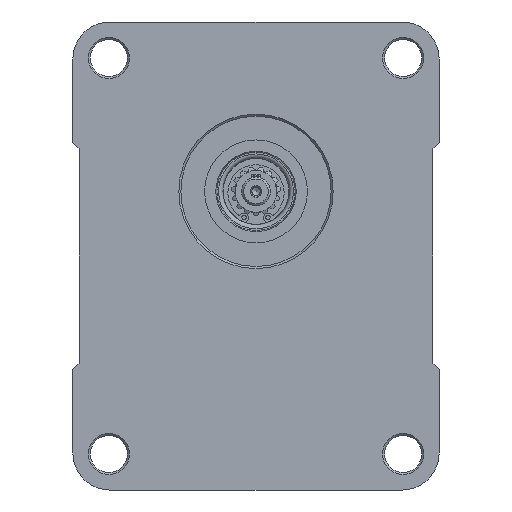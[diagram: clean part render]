
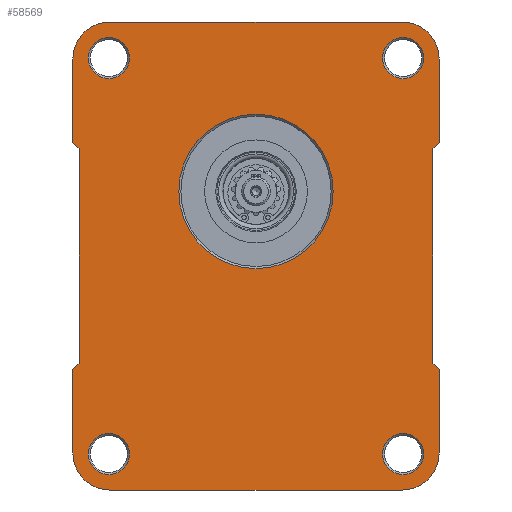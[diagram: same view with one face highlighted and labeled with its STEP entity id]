
A CAD part, front view. The second image highlights one B-rep face of the part: STEP entity #58569.
In plain terms, the highlighted planar face has unit normal (0, -1, 0).
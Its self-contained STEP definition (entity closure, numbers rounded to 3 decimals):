
#3438=LINE('',#79894,#5504);
#3439=LINE('',#79896,#5505);
#3440=LINE('',#79898,#5506);
#3441=LINE('',#79900,#5507);
#3442=LINE('',#79902,#5508);
#3443=LINE('',#79906,#5509);
#3444=LINE('',#79910,#5510);
#3445=LINE('',#79912,#5511);
#3446=LINE('',#79914,#5512);
#3447=LINE('',#79916,#5513);
#3448=LINE('',#79918,#5514);
#3449=LINE('',#79922,#5515);
#5504=VECTOR('',#66679,1000.);
#5505=VECTOR('',#66680,1000.);
#5506=VECTOR('',#66681,1000.);
#5507=VECTOR('',#66682,1000.);
#5508=VECTOR('',#66683,1000.);
#5509=VECTOR('',#66686,1000.);
#5510=VECTOR('',#66689,1000.);
#5511=VECTOR('',#66690,1000.);
#5512=VECTOR('',#66691,1000.);
#5513=VECTOR('',#66692,1000.);
#5514=VECTOR('',#66693,1000.);
#5515=VECTOR('',#66696,1000.);
#9418=ORIENTED_EDGE('',*,*,#21381,.T.);
#9419=ORIENTED_EDGE('',*,*,#21379,.T.);
#9420=ORIENTED_EDGE('',*,*,#21377,.T.);
#9421=ORIENTED_EDGE('',*,*,#21375,.T.);
#9422=ORIENTED_EDGE('',*,*,#21374,.T.);
#9423=ORIENTED_EDGE('',*,*,#21387,.T.);
#9424=ORIENTED_EDGE('',*,*,#21388,.T.);
#9425=ORIENTED_EDGE('',*,*,#21389,.T.);
#9426=ORIENTED_EDGE('',*,*,#21390,.T.);
#9427=ORIENTED_EDGE('',*,*,#21391,.T.);
#9428=ORIENTED_EDGE('',*,*,#21392,.T.);
#9429=ORIENTED_EDGE('',*,*,#21393,.T.);
#9430=ORIENTED_EDGE('',*,*,#21394,.T.);
#9431=ORIENTED_EDGE('',*,*,#21395,.T.);
#9432=ORIENTED_EDGE('',*,*,#21396,.T.);
#9433=ORIENTED_EDGE('',*,*,#21397,.T.);
#9434=ORIENTED_EDGE('',*,*,#21398,.T.);
#9435=ORIENTED_EDGE('',*,*,#21399,.T.);
#9436=ORIENTED_EDGE('',*,*,#21400,.T.);
#9437=ORIENTED_EDGE('',*,*,#21401,.T.);
#9438=ORIENTED_EDGE('',*,*,#21402,.T.);
#21374=EDGE_CURVE('',#27418,#27418,#31077,.F.);
#21375=EDGE_CURVE('',#27419,#27419,#31078,.F.);
#21377=EDGE_CURVE('',#27421,#27421,#31080,.F.);
#21379=EDGE_CURVE('',#27423,#27423,#31082,.F.);
#21381=EDGE_CURVE('',#27425,#27425,#31084,.F.);
#21387=EDGE_CURVE('',#27431,#27432,#31090,.T.);
#21388=EDGE_CURVE('',#27432,#27433,#3438,.T.);
#21389=EDGE_CURVE('',#27433,#27434,#3439,.T.);
#21390=EDGE_CURVE('',#27434,#27435,#3440,.T.);
#21391=EDGE_CURVE('',#27435,#27436,#3441,.T.);
#21392=EDGE_CURVE('',#27436,#27437,#3442,.T.);
#21393=EDGE_CURVE('',#27437,#27438,#31091,.T.);
#21394=EDGE_CURVE('',#27438,#27439,#3443,.T.);
#21395=EDGE_CURVE('',#27439,#27440,#31092,.T.);
#21396=EDGE_CURVE('',#27440,#27441,#3444,.T.);
#21397=EDGE_CURVE('',#27441,#27442,#3445,.T.);
#21398=EDGE_CURVE('',#27442,#27443,#3446,.T.);
#21399=EDGE_CURVE('',#27443,#27444,#3447,.T.);
#21400=EDGE_CURVE('',#27444,#27445,#3448,.T.);
#21401=EDGE_CURVE('',#27445,#27446,#31093,.T.);
#21402=EDGE_CURVE('',#27446,#27431,#3449,.T.);
#27418=VERTEX_POINT('',#79857);
#27419=VERTEX_POINT('',#79860);
#27421=VERTEX_POINT('',#79865);
#27423=VERTEX_POINT('',#79870);
#27425=VERTEX_POINT('',#79875);
#27431=VERTEX_POINT('',#79892);
#27432=VERTEX_POINT('',#79893);
#27433=VERTEX_POINT('',#79895);
#27434=VERTEX_POINT('',#79897);
#27435=VERTEX_POINT('',#79899);
#27436=VERTEX_POINT('',#79901);
#27437=VERTEX_POINT('',#79903);
#27438=VERTEX_POINT('',#79905);
#27439=VERTEX_POINT('',#79907);
#27440=VERTEX_POINT('',#79909);
#27441=VERTEX_POINT('',#79911);
#27442=VERTEX_POINT('',#79913);
#27443=VERTEX_POINT('',#79915);
#27444=VERTEX_POINT('',#79917);
#27445=VERTEX_POINT('',#79919);
#27446=VERTEX_POINT('',#79921);
#31077=CIRCLE('',#61457,18.75);
#31078=CIRCLE('',#61459,5.);
#31080=CIRCLE('',#61462,5.);
#31082=CIRCLE('',#61465,5.);
#31084=CIRCLE('',#61468,5.);
#31090=CIRCLE('',#61479,9.);
#31091=CIRCLE('',#61480,9.);
#31092=CIRCLE('',#61481,9.);
#31093=CIRCLE('',#61482,9.);
#33167=EDGE_LOOP('',(#9418));
#33168=EDGE_LOOP('',(#9419));
#33169=EDGE_LOOP('',(#9420));
#33170=EDGE_LOOP('',(#9421));
#33171=EDGE_LOOP('',(#9422));
#33172=EDGE_LOOP('',(#9423,#9424,#9425,#9426,#9427,#9428,#9429,#9430,#9431,
#9432,#9433,#9434,#9435,#9436,#9437,#9438));
#36163=FACE_BOUND('',#33167,.T.);
#36164=FACE_BOUND('',#33168,.T.);
#36165=FACE_BOUND('',#33169,.T.);
#36166=FACE_BOUND('',#33170,.T.);
#36167=FACE_BOUND('',#33171,.T.);
#36168=FACE_BOUND('',#33172,.T.);
#38924=PLANE('',#61478);
#58569=ADVANCED_FACE('',(#36163,#36164,#36165,#36166,#36167,#36168),#38924,
 .T.);
#61457=AXIS2_PLACEMENT_3D('',#79856,#66633,#66634);
#61459=AXIS2_PLACEMENT_3D('',#79859,#66637,#66638);
#61462=AXIS2_PLACEMENT_3D('',#79864,#66643,#66644);
#61465=AXIS2_PLACEMENT_3D('',#79869,#66649,#66650);
#61468=AXIS2_PLACEMENT_3D('',#79874,#66655,#66656);
#61478=AXIS2_PLACEMENT_3D('',#79890,#66675,#66676);
#61479=AXIS2_PLACEMENT_3D('',#79891,#66677,#66678);
#61480=AXIS2_PLACEMENT_3D('',#79904,#66684,#66685);
#61481=AXIS2_PLACEMENT_3D('',#79908,#66687,#66688);
#61482=AXIS2_PLACEMENT_3D('',#79920,#66694,#66695);
#66633=DIRECTION('',(0.,-1.,0.));
#66634=DIRECTION('',(0.,0.,-1.));
#66637=DIRECTION('',(0.,-1.,0.));
#66638=DIRECTION('',(0.,0.,-1.));
#66643=DIRECTION('',(0.,-1.,0.));
#66644=DIRECTION('',(0.,0.,-1.));
#66649=DIRECTION('',(0.,-1.,0.));
#66650=DIRECTION('',(0.,0.,-1.));
#66655=DIRECTION('',(0.,-1.,0.));
#66656=DIRECTION('',(0.,0.,-1.));
#66675=DIRECTION('',(0.,-1.,0.));
#66676=DIRECTION('',(0.,0.,-1.));
#66677=DIRECTION('',(0.,-1.,0.));
#66678=DIRECTION('',(1.,0.,0.));
#66679=DIRECTION('',(0.,0.,-1.));
#66680=DIRECTION('',(0.707,0.,-0.707));
#66681=DIRECTION('',(0.,0.,-1.));
#66682=DIRECTION('',(-0.707,0.,-0.707));
#66683=DIRECTION('',(0.,0.,-1.));
#66684=DIRECTION('',(0.,-1.,0.));
#66685=DIRECTION('',(1.,0.,0.));
#66686=DIRECTION('',(1.,0.,0.));
#66687=DIRECTION('',(0.,-1.,0.));
#66688=DIRECTION('',(-1.,0.,0.));
#66689=DIRECTION('',(0.,0.,1.));
#66690=DIRECTION('',(-0.707,0.,0.707));
#66691=DIRECTION('',(0.,0.,1.));
#66692=DIRECTION('',(0.707,0.,0.707));
#66693=DIRECTION('',(0.,0.,1.));
#66694=DIRECTION('',(0.,-1.,0.));
#66695=DIRECTION('',(1.,0.,0.));
#66696=DIRECTION('',(-1.,0.,0.));
#79856=CARTESIAN_POINT('',(0.,-31.5,7.5));
#79857=CARTESIAN_POINT('',(0.,-31.5,-11.25));
#79859=CARTESIAN_POINT('',(-35.75,-31.5,39.9));
#79860=CARTESIAN_POINT('',(-35.75,-31.5,34.9));
#79864=CARTESIAN_POINT('',(35.75,-31.5,39.9));
#79865=CARTESIAN_POINT('',(35.75,-31.5,34.9));
#79869=CARTESIAN_POINT('',(-35.75,-31.5,-56.3));
#79870=CARTESIAN_POINT('',(-35.75,-31.5,-61.3));
#79874=CARTESIAN_POINT('',(35.75,-31.5,-56.3));
#79875=CARTESIAN_POINT('',(35.75,-31.5,-61.3));
#79890=CARTESIAN_POINT('',(-35.5,-31.5,39.65));
#79891=CARTESIAN_POINT('',(-35.5,-31.5,39.65));
#79892=CARTESIAN_POINT('',(-35.5,-31.5,48.65));
#79893=CARTESIAN_POINT('',(-44.5,-31.5,39.65));
#79894=CARTESIAN_POINT('',(-44.5,-31.5,39.65));
#79895=CARTESIAN_POINT('',(-44.5,-31.5,19.3));
#79896=CARTESIAN_POINT('',(-43.,-31.5,17.8));
#79897=CARTESIAN_POINT('',(-43.,-31.5,17.8));
#79898=CARTESIAN_POINT('',(-43.,-31.5,17.8));
#79899=CARTESIAN_POINT('',(-43.,-31.5,-34.2));
#79900=CARTESIAN_POINT('',(-43.,-31.5,-34.2));
#79901=CARTESIAN_POINT('',(-44.5,-31.5,-35.7));
#79902=CARTESIAN_POINT('',(-44.5,-31.5,-56.05));
#79903=CARTESIAN_POINT('',(-44.5,-31.5,-56.05));
#79904=CARTESIAN_POINT('',(-35.5,-31.5,-56.05));
#79905=CARTESIAN_POINT('',(-35.5,-31.5,-65.05));
#79906=CARTESIAN_POINT('',(-35.5,-31.5,-65.05));
#79907=CARTESIAN_POINT('',(35.5,-31.5,-65.05));
#79908=CARTESIAN_POINT('',(35.5,-31.5,-56.05));
#79909=CARTESIAN_POINT('',(44.5,-31.5,-56.05));
#79910=CARTESIAN_POINT('',(44.5,-31.5,-56.05));
#79911=CARTESIAN_POINT('',(44.5,-31.5,-35.7));
#79912=CARTESIAN_POINT('',(43.,-31.5,-34.2));
#79913=CARTESIAN_POINT('',(43.,-31.5,-34.2));
#79914=CARTESIAN_POINT('',(43.,-31.5,17.8));
#79915=CARTESIAN_POINT('',(43.,-31.5,17.8));
#79916=CARTESIAN_POINT('',(43.,-31.5,17.8));
#79917=CARTESIAN_POINT('',(44.5,-31.5,19.3));
#79918=CARTESIAN_POINT('',(44.5,-31.5,39.65));
#79919=CARTESIAN_POINT('',(44.5,-31.5,39.65));
#79920=CARTESIAN_POINT('',(35.5,-31.5,39.65));
#79921=CARTESIAN_POINT('',(35.5,-31.5,48.65));
#79922=CARTESIAN_POINT('',(-35.5,-31.5,48.65));
